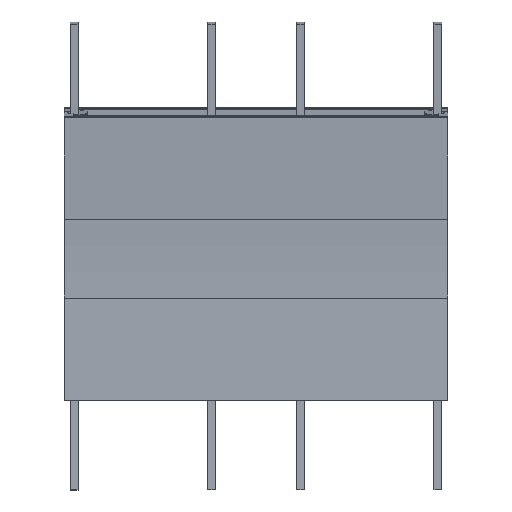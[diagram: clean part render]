
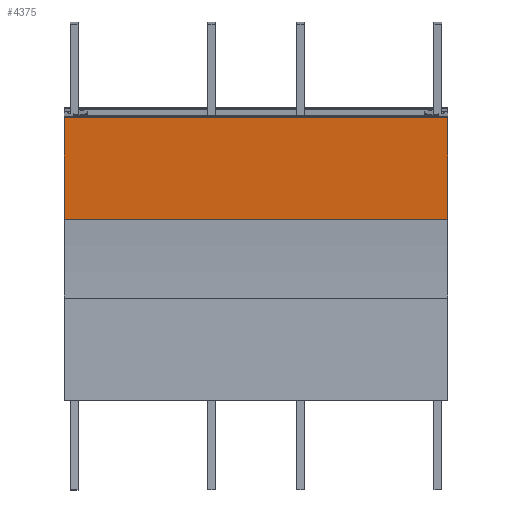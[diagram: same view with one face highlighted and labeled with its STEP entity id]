
A CAD part, top view. The second image highlights one B-rep face of the part: STEP entity #4375.
In plain terms, the highlighted planar face has unit normal (0, -0.087, 0.996).
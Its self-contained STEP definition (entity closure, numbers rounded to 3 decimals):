
#86 = CARTESIAN_POINT ( 'NONE',  ( -150., 221.01, 56.149 ) ) ;
#389 = DIRECTION ( 'NONE',  ( 0., -0.996, -0.087 ) ) ;
#397 = VECTOR ( 'NONE', #389, 1000. ) ;
#532 = LINE ( 'NONE', #4564, #1851 ) ;
#730 = DIRECTION ( 'NONE',  ( 0., -0.996, -0.087 ) ) ;
#834 = DIRECTION ( 'NONE',  ( 0., -0.087, 0.996 ) ) ;
#905 = LINE ( 'NONE', #86, #2212 ) ;
#981 = ORIENTED_EDGE ( 'NONE', *, *, #8388, .T. ) ;
#1032 = VERTEX_POINT ( 'NONE', #8743 ) ;
#1851 = VECTOR ( 'NONE', #8406, 1000. ) ;
#1921 = LINE ( 'NONE', #8252, #4656 ) ;
#1975 = DIRECTION ( 'NONE',  ( -1., 0., 0. ) ) ;
#2049 = ORIENTED_EDGE ( 'NONE', *, *, #3554, .T. ) ;
#2103 = ORIENTED_EDGE ( 'NONE', *, *, #3249, .F. ) ;
#2205 = VERTEX_POINT ( 'NONE', #4164 ) ;
#2212 = VECTOR ( 'NONE', #7835, 1000. ) ;
#2706 = LINE ( 'NONE', #9756, #397 ) ;
#3249 = EDGE_CURVE ( 'NONE', #10111, #10053, #2706, .T. ) ;
#3554 = EDGE_CURVE ( 'NONE', #10111, #1032, #905, .T. ) ;
#4164 = CARTESIAN_POINT ( 'NONE',  ( -150., 141.314, 49.177 ) ) ;
#4375 = ADVANCED_FACE ( 'NONE', ( #4646 ), #9426, .T. ) ;
#4564 = CARTESIAN_POINT ( 'NONE',  ( -150., 221.01, 56.149 ) ) ;
#4646 = FACE_OUTER_BOUND ( 'NONE', #8877, .T. ) ;
#4656 = VECTOR ( 'NONE', #1975, 1000. ) ;
#6539 = ORIENTED_EDGE ( 'NONE', *, *, #9479, .F. ) ;
#6769 = CARTESIAN_POINT ( 'NONE',  ( 150., 141.314, 49.177 ) ) ;
#7505 = CARTESIAN_POINT ( 'NONE',  ( 150., 221.01, 56.149 ) ) ;
#7809 = CARTESIAN_POINT ( 'NONE',  ( -150., 221.01, 56.149 ) ) ;
#7835 = DIRECTION ( 'NONE',  ( -1., 0., 0. ) ) ;
#7859 = AXIS2_PLACEMENT_3D ( 'NONE', #7809, #834, #730 ) ;
#8252 = CARTESIAN_POINT ( 'NONE',  ( -150., 141.314, 49.177 ) ) ;
#8388 = EDGE_CURVE ( 'NONE', #1032, #2205, #532, .T. ) ;
#8406 = DIRECTION ( 'NONE',  ( 0., -0.996, -0.087 ) ) ;
#8743 = CARTESIAN_POINT ( 'NONE',  ( -150., 221.01, 56.149 ) ) ;
#8877 = EDGE_LOOP ( 'NONE', ( #6539, #2103, #2049, #981 ) ) ;
#9426 = PLANE ( 'NONE',  #7859 ) ;
#9479 = EDGE_CURVE ( 'NONE', #10053, #2205, #1921, .T. ) ;
#9756 = CARTESIAN_POINT ( 'NONE',  ( 150., 221.01, 56.149 ) ) ;
#10053 = VERTEX_POINT ( 'NONE', #6769 ) ;
#10111 = VERTEX_POINT ( 'NONE', #7505 ) ;
